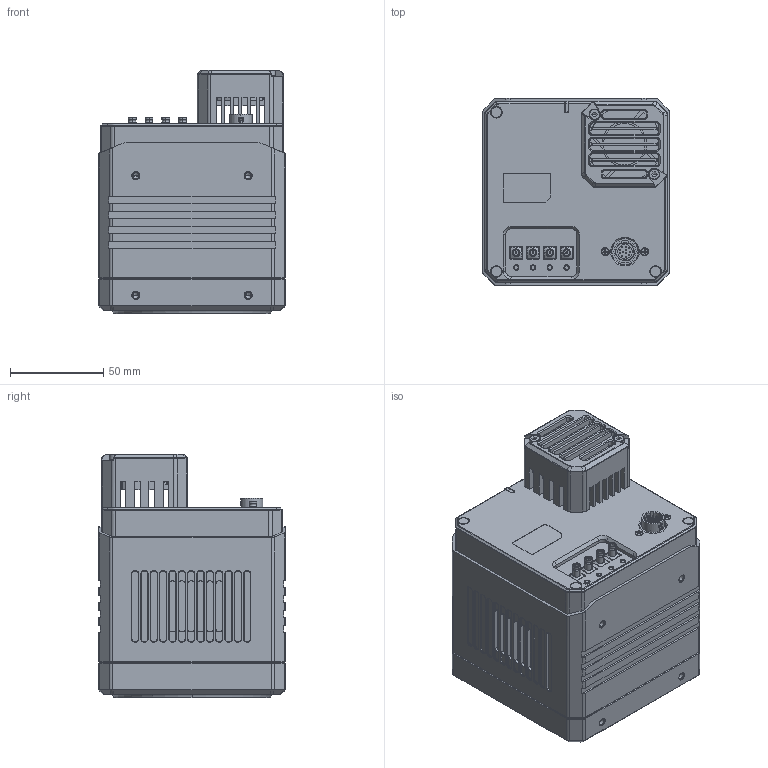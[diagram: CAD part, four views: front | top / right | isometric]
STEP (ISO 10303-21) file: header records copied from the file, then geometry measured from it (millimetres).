
FILE_DESCRIPTION((''),'2;1');
FILE_NAME('ASSY20210322_ASM_ASM','2021-07-02T19:43:02',('wangyijun6'),(''),'CREO PARAMETRIC BY PTC INC, 2017260','CREO PARAMETRIC BY PTC INC, 2017260','');
FILE_SCHEMA(('CONFIG_CONTROL_DESIGN'));
Products named in the file (1): ASSY20210322_ASM_ASM
Bounding box: 100 x 100 x 130.27 mm (x, y, z)
Volume: 939252.7 mm3; surface area: 184566.8 mm2
Topology: 8 solids, 42 shells, 3019 faces, 7936 edges, 4977 vertices
Faces by surface type: plane 1481, cylinder 1002, cone 373, torus 91, bspline 56, extrusion 16
Entity records: 95225 total; most frequent: CARTESIAN_POINT 19632, DIRECTION 16035, ORIENTED_EDGE 15704, EDGE_CURVE 7880, AXIS2_PLACEMENT_3D 5603, VERTEX_POINT 4977, VECTOR 4829, LINE 4813
